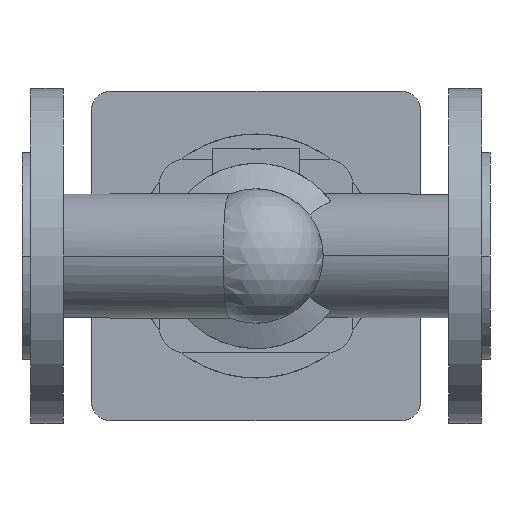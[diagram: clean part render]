
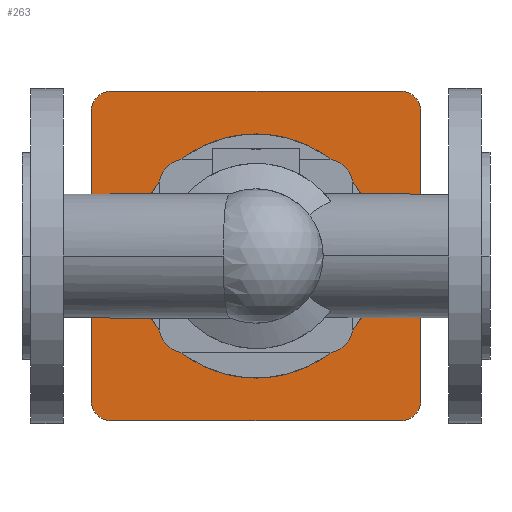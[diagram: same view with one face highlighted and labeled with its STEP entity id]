
A CAD part, front view. The second image highlights one B-rep face of the part: STEP entity #263.
In plain terms, the highlighted planar face has unit normal (0, -1, 0).
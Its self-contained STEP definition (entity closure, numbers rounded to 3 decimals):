
#263 = ADVANCED_FACE( '', ( #603, #604 ), #605, .F. );
#603 = FACE_OUTER_BOUND( '', #969, .T. );
#604 = FACE_BOUND( '', #970, .T. );
#605 = PLANE( '', #971 );
#969 = EDGE_LOOP( '', ( #2116, #2117, #2118, #2119, #2120, #2121, #2122, #2123 ) );
#970 = EDGE_LOOP( '', ( #2124, #2125 ) );
#971 = AXIS2_PLACEMENT_3D( '', #2126, #2127, #2128 );
#2116 = ORIENTED_EDGE( '', *, *, #2645, .F. );
#2117 = ORIENTED_EDGE( '', *, *, #2646, .F. );
#2118 = ORIENTED_EDGE( '', *, *, #2647, .F. );
#2119 = ORIENTED_EDGE( '', *, *, #2648, .F. );
#2120 = ORIENTED_EDGE( '', *, *, #2649, .F. );
#2121 = ORIENTED_EDGE( '', *, *, #2650, .F. );
#2122 = ORIENTED_EDGE( '', *, *, #2651, .F. );
#2123 = ORIENTED_EDGE( '', *, *, #2652, .F. );
#2124 = ORIENTED_EDGE( '', *, *, #2560, .F. );
#2125 = ORIENTED_EDGE( '', *, *, #2653, .F. );
#2126 = CARTESIAN_POINT( '', ( 115., 401., 0. ) );
#2127 = DIRECTION( '', ( 0., 1., 0. ) );
#2128 = DIRECTION( '', ( 0., 0., 1. ) );
#2560 = EDGE_CURVE( '', #3135, #3138, #3139, .T. );
#2645 = EDGE_CURVE( '', #3282, #3283, #3284, .T. );
#2646 = EDGE_CURVE( '', #3285, #3282, #3286, .T. );
#2647 = EDGE_CURVE( '', #3287, #3285, #3288, .T. );
#2648 = EDGE_CURVE( '', #3289, #3287, #3290, .T. );
#2649 = EDGE_CURVE( '', #3291, #3289, #3292, .T. );
#2650 = EDGE_CURVE( '', #3293, #3291, #3294, .T. );
#2651 = EDGE_CURVE( '', #3295, #3293, #3296, .T. );
#2652 = EDGE_CURVE( '', #3283, #3295, #3297, .T. );
#2653 = EDGE_CURVE( '', #3138, #3135, #3298, .T. );
#3135 = VERTEX_POINT( '', #4408 );
#3138 = VERTEX_POINT( '', #4412 );
#3139 = CIRCLE( '', #4413, 40. );
#3282 = VERTEX_POINT( '', #4611 );
#3283 = VERTEX_POINT( '', #4612 );
#3284 = CIRCLE( '', #4613, 10. );
#3285 = VERTEX_POINT( '', #4614 );
#3286 = LINE( '', #4615, #4616 );
#3287 = VERTEX_POINT( '', #4617 );
#3288 = CIRCLE( '', #4618, 10. );
#3289 = VERTEX_POINT( '', #4619 );
#3290 = LINE( '', #4620, #4621 );
#3291 = VERTEX_POINT( '', #4622 );
#3292 = CIRCLE( '', #4623, 10. );
#3293 = VERTEX_POINT( '', #4624 );
#3294 = LINE( '', #4625, #4626 );
#3295 = VERTEX_POINT( '', #4627 );
#3296 = CIRCLE( '', #4628, 10. );
#3297 = LINE( '', #4629, #4630 );
#3298 = CIRCLE( '', #4631, 40. );
#4408 = CARTESIAN_POINT( '', ( 75., 401., 0. ) );
#4412 = CARTESIAN_POINT( '', ( 155., 401., 0. ) );
#4413 = AXIS2_PLACEMENT_3D( '', #5186, #5187, #5188 );
#4611 = CARTESIAN_POINT( '', ( 34., 401., 71. ) );
#4612 = CARTESIAN_POINT( '', ( 44., 401., 81. ) );
#4613 = AXIS2_PLACEMENT_3D( '', #5331, #5332, #5333 );
#4614 = CARTESIAN_POINT( '', ( 34., 401., -71. ) );
#4615 = CARTESIAN_POINT( '', ( 34., 401., -71. ) );
#4616 = VECTOR( '', #5334, 1. );
#4617 = CARTESIAN_POINT( '', ( 44., 401., -81. ) );
#4618 = AXIS2_PLACEMENT_3D( '', #5335, #5336, #5337 );
#4619 = CARTESIAN_POINT( '', ( 186., 401., -81. ) );
#4620 = CARTESIAN_POINT( '', ( 186., 401., -81. ) );
#4621 = VECTOR( '', #5338, 1. );
#4622 = CARTESIAN_POINT( '', ( 196., 401., -71. ) );
#4623 = AXIS2_PLACEMENT_3D( '', #5339, #5340, #5341 );
#4624 = CARTESIAN_POINT( '', ( 196., 401., 71. ) );
#4625 = CARTESIAN_POINT( '', ( 196., 401., 71. ) );
#4626 = VECTOR( '', #5342, 1. );
#4627 = CARTESIAN_POINT( '', ( 186., 401., 81. ) );
#4628 = AXIS2_PLACEMENT_3D( '', #5343, #5344, #5345 );
#4629 = CARTESIAN_POINT( '', ( 44., 401., 81. ) );
#4630 = VECTOR( '', #5346, 1. );
#4631 = AXIS2_PLACEMENT_3D( '', #5347, #5348, #5349 );
#5186 = CARTESIAN_POINT( '', ( 115., 401., 0. ) );
#5187 = DIRECTION( '', ( 0., -1., 0. ) );
#5188 = DIRECTION( '', ( -1., 0., 0. ) );
#5331 = CARTESIAN_POINT( '', ( 44., 401., 71. ) );
#5332 = DIRECTION( '', ( 0., 1., 0. ) );
#5333 = DIRECTION( '', ( -1., 0., 0. ) );
#5334 = DIRECTION( '', ( 0., 0., 1. ) );
#5335 = CARTESIAN_POINT( '', ( 44., 401., -71. ) );
#5336 = DIRECTION( '', ( 0., 1., 0. ) );
#5337 = DIRECTION( '', ( 0., 0., -1. ) );
#5338 = DIRECTION( '', ( -1., 0., 0. ) );
#5339 = CARTESIAN_POINT( '', ( 186., 401., -71. ) );
#5340 = DIRECTION( '', ( 0., 1., 0. ) );
#5341 = DIRECTION( '', ( 1., 0., 0. ) );
#5342 = DIRECTION( '', ( 0., 0., -1. ) );
#5343 = CARTESIAN_POINT( '', ( 186., 401., 71. ) );
#5344 = DIRECTION( '', ( 0., 1., 0. ) );
#5345 = DIRECTION( '', ( 0., 0., 1. ) );
#5346 = DIRECTION( '', ( 1., 0., 0. ) );
#5347 = CARTESIAN_POINT( '', ( 115., 401., 0. ) );
#5348 = DIRECTION( '', ( 0., -1., 0. ) );
#5349 = DIRECTION( '', ( -1., 0., 0. ) );
